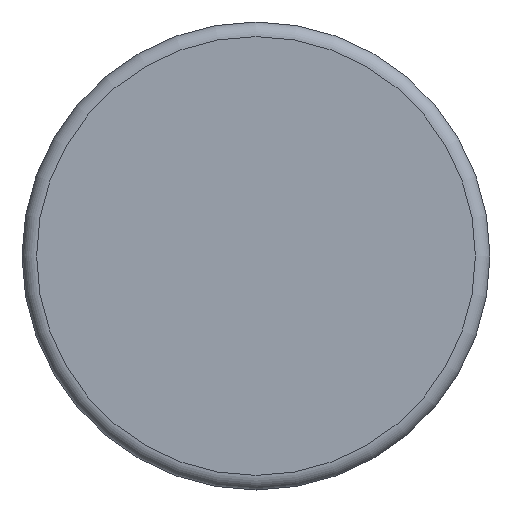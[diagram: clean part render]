
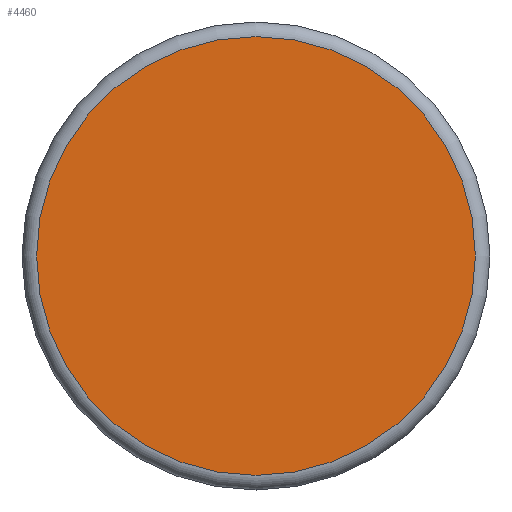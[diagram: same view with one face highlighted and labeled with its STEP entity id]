
A CAD part, front view. The second image highlights one B-rep face of the part: STEP entity #4460.
In plain terms, the highlighted planar face has unit normal (0, -1, 0).
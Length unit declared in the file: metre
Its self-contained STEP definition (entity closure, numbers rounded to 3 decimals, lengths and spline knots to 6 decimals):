
#1954=ORIENTED_EDGE('',*,*,#2744,.T.);
#2744=EDGE_CURVE('',#3142,#3142,#3280,.T.);
#3142=VERTEX_POINT('',#9099);
#3280=CIRCLE('',#6262,0.00075);
#3528=EDGE_LOOP('',(#1954));
#3807=FACE_BOUND('',#3528,.T.);
#3984=PLANE('',#6261);
#4460=ADVANCED_FACE('',(#3807),#3984,.T.);
#6261=AXIS2_PLACEMENT_3D('',#9097,#7285,#7286);
#6262=AXIS2_PLACEMENT_3D('',#9098,#7287,#7288);
#7285=DIRECTION('',(0.,-1.,0.));
#7286=DIRECTION('',(0.,0.,-1.));
#7287=DIRECTION('',(0.,-1.,0.));
#7288=DIRECTION('',(0.,0.,-1.));
#9097=CARTESIAN_POINT('',(-0.069892,-0.053803,0.0071));
#9098=CARTESIAN_POINT('',(-0.069892,-0.053803,0.0071));
#9099=CARTESIAN_POINT('',(-0.069892,-0.053803,0.00635));
